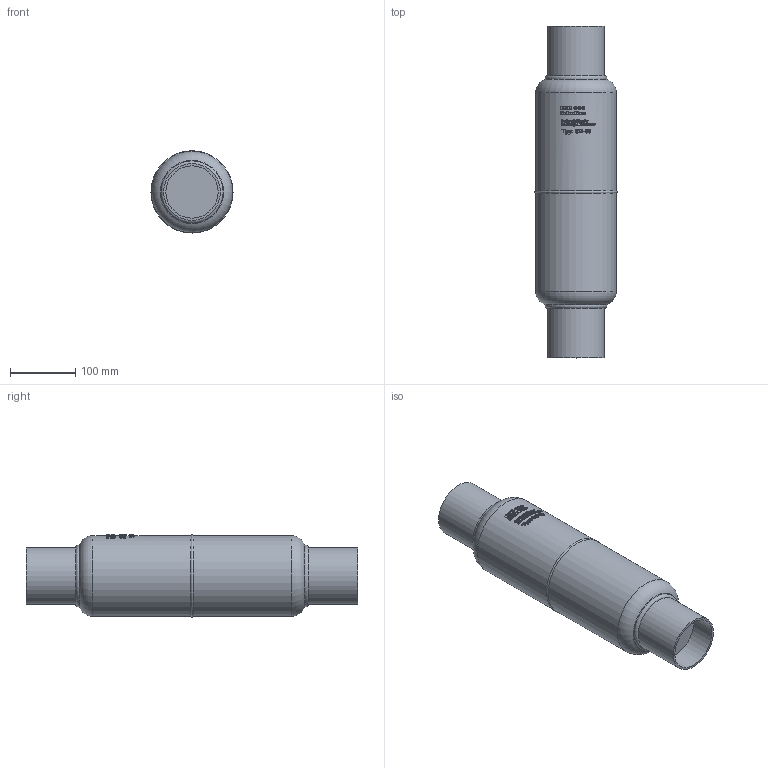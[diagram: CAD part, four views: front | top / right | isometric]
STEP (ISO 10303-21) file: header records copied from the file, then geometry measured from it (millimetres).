
FILE_DESCRIPTION(/* description */ (''),/* implementation_level */ '2;1');
FILE_NAME(/* name */ 'P:\GD\GD-80\GD-80.stp',/* time_stamp */ '2017-10-05T08:29:12+02:00',/* author */ ('neufeld'),/* organization */ (''),/* preprocessor_version */ 'ST-DEVELOPER v16.1',/* originating_system */ 'Autodesk Inventor 2016',/* authorisation */ '');
FILE_SCHEMA (('AUTOMOTIVE_DESIGN { 1 0 10303 214 3 1 1 }'));
Length unit declared in the file: millimetre
Products named in the file (2): GD-80; GD-80_1
Assembly tree (1 placements, depth 2):
  GD-80_1
    GD-80
Bounding box: 125.94 x 508.89 x 125.97 mm (x, y, z)
Volume: 4701636.8 mm3; surface area: 217065.1 mm2
Topology: 1 solids, 1 shells, 1018 faces, 2783 edges, 1854 vertices
Faces by surface type: plane 543, bspline 379, cylinder 89, torus 5, sphere 2
Full cylindrical faces by diameter (mm): 80.3 x2, 87 x2, 124 x2
Entity records: 40010 total; most frequent: CARTESIAN_POINT 16134, ORIENTED_EDGE 5540, DIRECTION 3982, EDGE_CURVE 2770, VERTEX_POINT 1852, AXIS2_PLACEMENT_3D 1328, LINE 1326, VECTOR 1326
